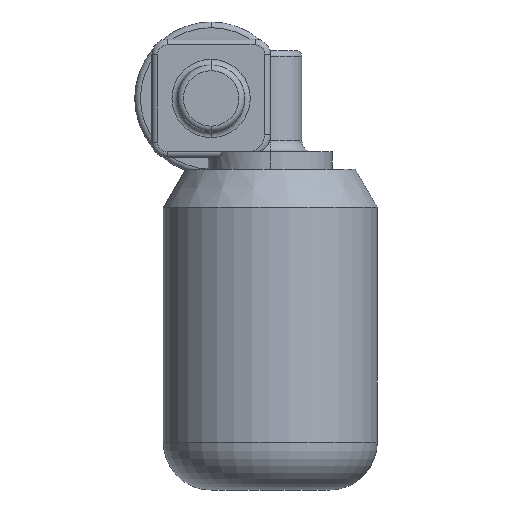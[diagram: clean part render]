
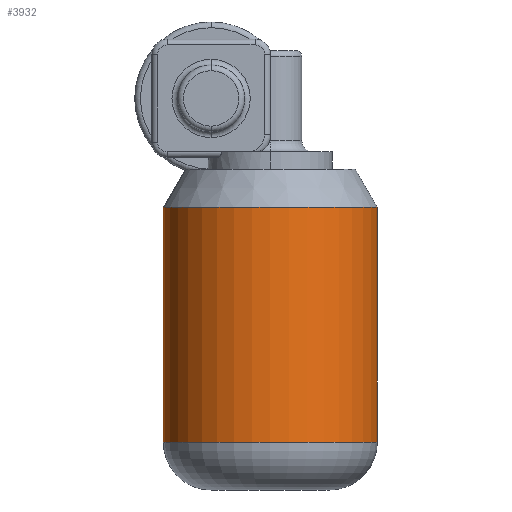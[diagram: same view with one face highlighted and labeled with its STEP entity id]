
A CAD part, left-side view. The second image highlights one B-rep face of the part: STEP entity #3932.
In plain terms, the highlighted cylindrical face has radius 56 mm (diameter 112 mm), a partial arc.
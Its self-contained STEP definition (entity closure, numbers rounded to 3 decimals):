
#1289 = CARTESIAN_POINT ( 'NONE',  ( 0., -54.893, -20. ) ) ;
#1302 = CARTESIAN_POINT ( 'NONE',  ( 0., -54.893, -143. ) ) ;
#1308 = CARTESIAN_POINT ( 'NONE',  ( 0., 57.107, -143. ) ) ;
#1321 = DIRECTION ( 'NONE',  ( 0., 0., 1. ) ) ;
#1322 = VECTOR ( 'NONE', #1321, 1000. ) ;
#1323 = CARTESIAN_POINT ( 'NONE',  ( 0., -54.893, -168. ) ) ;
#1324 = LINE ( 'NONE', #1323, #1322 ) ;
#1345 = DIRECTION ( 'NONE',  ( 0., 0., 1. ) ) ;
#1346 = VECTOR ( 'NONE', #1345, 1000. ) ;
#1347 = CARTESIAN_POINT ( 'NONE',  ( 0., 57.107, -168. ) ) ;
#1352 = LINE ( 'NONE', #1347, #1346 ) ;
#1370 = DIRECTION ( 'NONE',  ( 0., -1., 0. ) ) ;
#1371 = DIRECTION ( 'NONE',  ( 0., 0., 1. ) ) ;
#1372 = AXIS2_PLACEMENT_3D ( 'NONE', #1374, #1371, #1370 ) ;
#1373 = CYLINDRICAL_SURFACE ( 'NONE', #1372, 56. ) ;
#1374 = CARTESIAN_POINT ( 'NONE',  ( 0., 1.107, -168. ) ) ;
#1380 = FACE_OUTER_BOUND ( 'NONE', #3933, .T. ) ;
#1413 = DIRECTION ( 'NONE',  ( 0., -1., 0. ) ) ;
#1414 = DIRECTION ( 'NONE',  ( 0., 0., -1. ) ) ;
#1415 = AXIS2_PLACEMENT_3D ( 'NONE', #1422, #1414, #1413 ) ;
#1416 = CIRCLE ( 'NONE', #1415, 56. ) ;
#1417 = DIRECTION ( 'NONE',  ( 0., -1., 0. ) ) ;
#1418 = DIRECTION ( 'NONE',  ( 0., 0., 1. ) ) ;
#1419 = CARTESIAN_POINT ( 'NONE',  ( 0., 1.107, -143. ) ) ;
#1420 = AXIS2_PLACEMENT_3D ( 'NONE', #1419, #1418, #1417 ) ;
#1421 = CIRCLE ( 'NONE', #1420, 56. ) ;
#1422 = CARTESIAN_POINT ( 'NONE',  ( 0., 1.107, -20. ) ) ;
#1649 = CARTESIAN_POINT ( 'NONE',  ( 0., 57.107, -20. ) ) ;
#3886 = VERTEX_POINT ( 'NONE', #1289 ) ;
#3904 = EDGE_CURVE ( 'NONE', #3914, #3886, #1324, .T. ) ;
#3911 = VERTEX_POINT ( 'NONE', #1308 ) ;
#3914 = VERTEX_POINT ( 'NONE', #1302 ) ;
#3921 = EDGE_CURVE ( 'NONE', #3911, #3968, #1352, .T. ) ;
#3932 = ADVANCED_FACE ( 'NONE', ( #1380 ), #1373, .T. ) ;
#3933 = EDGE_LOOP ( 'NONE', ( #3934, #3935, #3937, #3938 ) ) ;
#3934 = ORIENTED_EDGE ( 'NONE', *, *, #3921, .F. ) ;
#3935 = ORIENTED_EDGE ( 'NONE', *, *, #3936, .T. ) ;
#3936 = EDGE_CURVE ( 'NONE', #3911, #3914, #1421, .T. ) ;
#3937 = ORIENTED_EDGE ( 'NONE', *, *, #3904, .T. ) ;
#3938 = ORIENTED_EDGE ( 'NONE', *, *, #3939, .T. ) ;
#3939 = EDGE_CURVE ( 'NONE', #3886, #3968, #1416, .T. ) ;
#3968 = VERTEX_POINT ( 'NONE', #1649 ) ;
